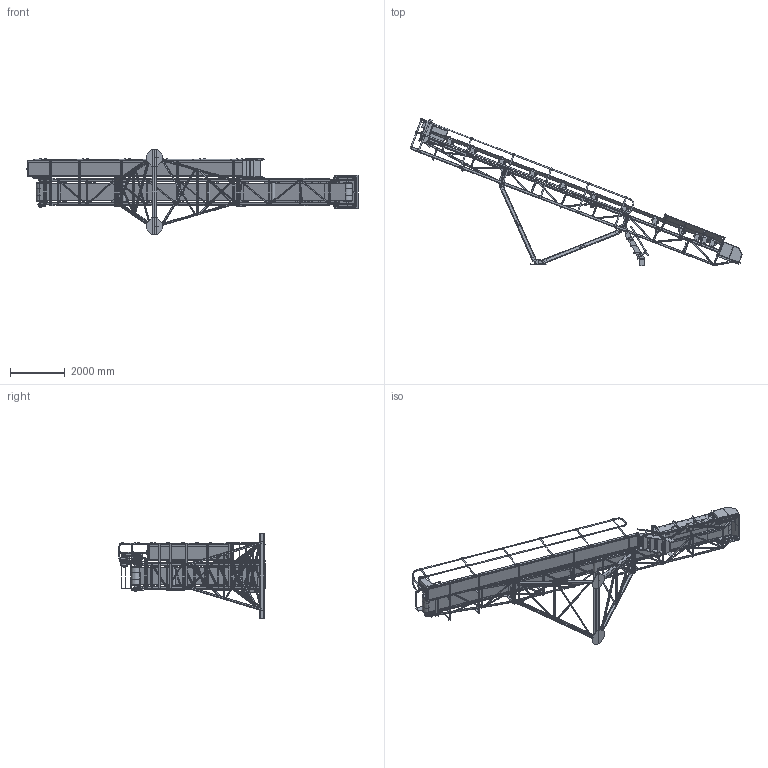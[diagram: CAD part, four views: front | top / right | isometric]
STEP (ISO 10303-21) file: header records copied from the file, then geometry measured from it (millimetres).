
FILE_DESCRIPTION(/* description */ (''),/* implementation_level */ '2;1');
FILE_NAME(/* name */ 'beltconveyor_a008_w600_l2000.stp',/* time_stamp */ '2024-12-15T00:30:06+08:00',/* author */ (''),/* organization */ (''),/* preprocessor_version */ 'ST-DEVELOPER v16.7',/* originating_system */ 'SIEMENS PLM Software NX 12.0',/* authorisation */ '');
FILE_SCHEMA (('AUTOMOTIVE_DESIGN { 1 0 10303 214 3 1 1 1 }'));
Products named in the file (303): BSI 12 00000031-1_CATPart; BSI 12 00000008-11_CATPart; BSI 12 00000023-11_CATPart; BSI 12 00000032-1_CATPart; BSI 12 00000009-11_CATPart; BSI 12 00000026-1_CATPart; BSI 12 00000033-1_CATPart; BSI 12 00000010-11_CATPart; BSI 12 00000027-1_CATPart; BSI 12 00000034-1_CATPart; BSI 12 00000011-11_CATPart; BSI 12 00000029-1_CATPart; BSI 12 00000016-11_CATPart; BSI 12 00000030-1_CATPart; BSI 12 00000007-11_CATPart; BSI 12 00000022-11_CATPart; BSI 12 00000013-1_CATPart; BSI 12 00000002-1_CATPart; BSI 12 00000019-1_CATPart; BSI 12 00000008-1_CATPart; BSI 12 00000014-1_CATPart; BSI 12 00000003-1_CATPart; BSI 12 00000020-1_CATPart; BSI 12 00000009-1_CATPart; BSI 12 00000015-1_CATPart; BSI 12 00000004-1_CATPart; BSI 12 00000021-1_CATPart; BSI 12 00000010-1_CATPart; BSI 12 00000016-1_CATPart; BSI 12 00000005-1_CATPart; BSI 12 00000022-1_CATPart; BSI 12 00000011-1_CATPart; BSI 12 00000017-1_CATPart; BSI 12 00000006-1_CATPart; BSI 12 00000023-1_CATPart; BSI 12 00000012-1_CATPart; BSI 12 00000001-1_CATPart; BSI 12 00000018-1_CATPart; BSI 12 00000007-1_CATPart; BSI 50x50x6 00000017-12_CATPart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
Assembly tree (373 placements, depth 6):
  beltconveyor_a008_w600_l2000
    600TailGantryAssy-1_CATProduct
      600Feedskirt-1_1_CATProduct
        FeedskirtingBack-1_CATPart
        FeedskirtingSide-1_CATPart  x2
        600FeedskirtFrame-1_CATProduct
          Frame0001-1_CATProduct
            BSI 50x50x6 00000011-12_CATPart
            BSI 50x50x6 00000005-1_CATPart
            BSI 50x50x6 00000016-12_CATPart
            BSI 50x50x6 00000010-12_CATPart
            BSI 50x50x6 00000004-1_CATPart
            BSI 50x50x6 00000015-12_CATPart
            BSI 50x50x6 00000009-12_CATPart
            BSI 50x50x6 00000003-1_CATPart
            BSI 50x50x6 00000014-12_CATPart
            BSI 50x50x6 00000008-1_CATPart
            BSI 50x50x6 00000002-1_CATPart
            BSI 50x50x6 00000013-12_CATPart
            BSI 50x50x6 00000007-1_CATPart
            BSI 50x50x6 00000018-12_CATPart
            BSI 50x50x6 00000001-1_CATPart
            BSI 50x50x6 00000012-12_CATPart
            BSI 50x50x6 00000006-1_CATPart
            BSI 50x50x6 00000017-12_CATPart
          600Feedskirt-1_CATPart
      600X35degIdler-61_CATPart  x5
      600Tailbelt-1_CATPart
      350TU&60Brg-1_1_CATProduct
        60diax350screw takeup-1_CATPart
        60SNA513-1_CATPart
      320diaX700wX60TailPulley-1_CATProduct
        Key18x11x50-11_CATPart  x2
        600wideX60TailShaft-1_CATPart
        320diaX700wX60x50TailPulleyDrumWelded-1_CATProduct
          320diax700wx60PulleyDrum-1_CATPart
        BS 4168 - Part 1 Hexagon Socket Head Cap Screw - Metric M12 x 40-11_C
ATPart  x2
      350TU&60Brg-1_CATProduct
        60diax350screw takeup-1_CATPart
        60SNA513-1_CATPart
      600X127X40Return-11_CATPart
      600TailDeckPlate-1_CATPart
      600Tailguard-1_CATProduct
        600TailguardMesh-1_CATPart
        600TailguardFrame-1_CATProduct
          600TailguardCleats-1_CATPart
          FrameTailguard-1_CATProduct
            BSI 12 00000007-1_CATPart
            BSI 12 00000018-1_CATPart
            BSI 12 00000001-1_CATPart
            BSI 12 00000012-1_CATPart
            BSI 12 00000023-1_CATPart
            BSI 12 00000006-1_CATPart
            BSI 12 00000017-1_CATPart
            BSI 12 00000011-1_CATPart
            BSI 12 00000022-1_CATPart
            BSI 12 00000005-1_CATPart
            BSI 12 00000016-1_CATPart
            BSI 12 00000010-1_CATPart
            BSI 12 00000021-1_CATPart
Bounding box: 12143.91 x 5388.87 x 3100 mm (x, y, z)
Volume: 724051181.3 mm3; surface area: 137894128.4 mm2
Topology: 416 solids, 416 shells, 8401 faces, 21818 edges, 14553 vertices
Faces by surface type: plane 5700, cylinder 1886, cone 393, extrusion 246, bspline 158, sphere 18
Full cylindrical faces by diameter (mm): 0.643 x2, 1.07 x4, 2.14 x10, 3 x8, 9 x2, 10.106 x5, 12 x61, 13 x8, 13.835 x2, 14 x79, 16 x6, 17.571 x4, 18 x51, 20 x8, 21.6 x2, 22 x18, 24 x2, 25 x78, 28 x2, 29.9 x1, 30 x4, 32 x16, 34 x32, 38 x6, 40 x18, 60 x3, 65 x2, 71.286 x8, 80 x4, 87 x8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
Entity records: 202933 total; most frequent: CARTESIAN_POINT 36572, ORIENTED_EDGE 25522, DIRECTION 24821, EDGE_CURVE 12761, VERTEX_POINT 8707, VECTOR 8403, LINE 8280, AXIS2_PLACEMENT_3D 8209
